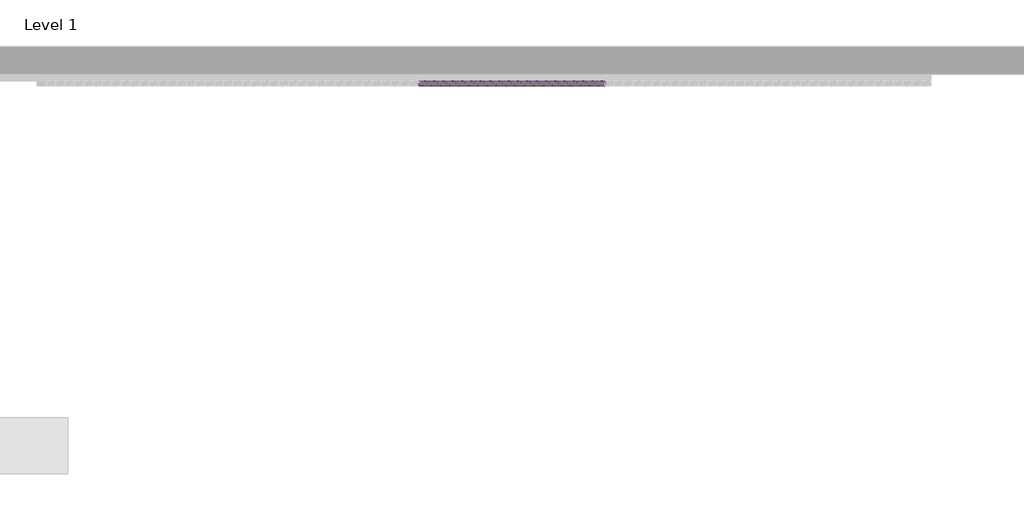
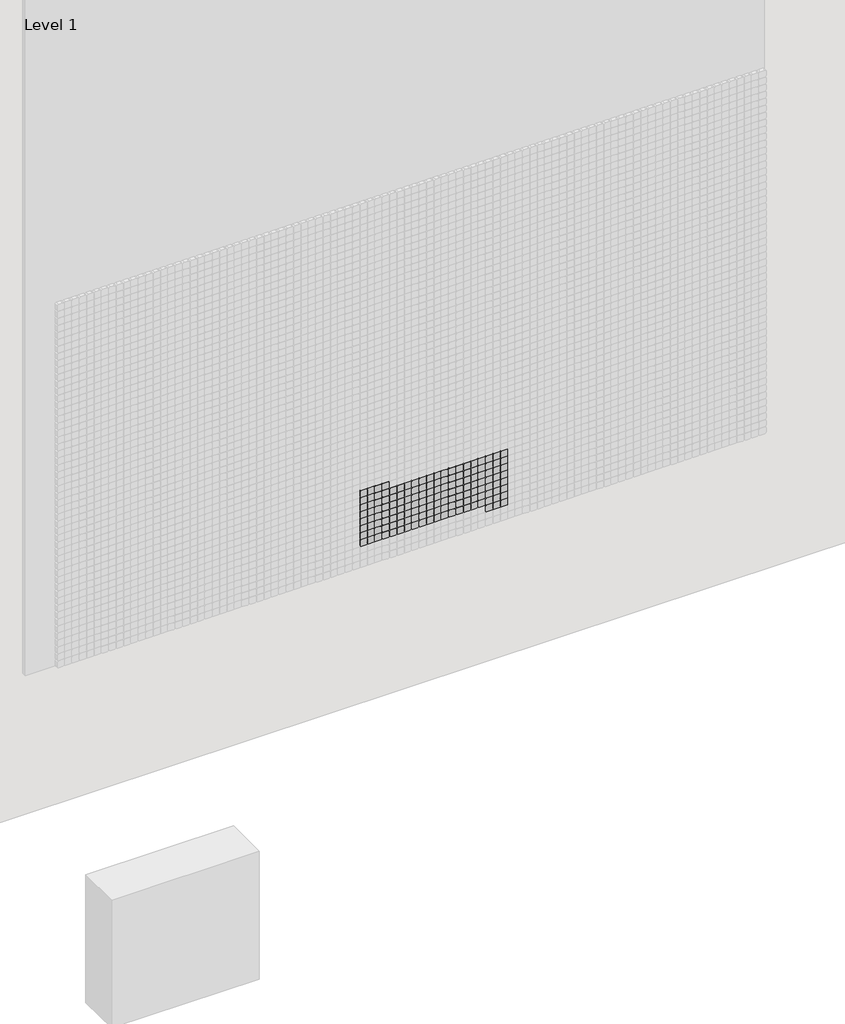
# One storey, part 47 of 71: 147 proxies.
"""IFC4 building model written with IfcOpenShell, lengths in millimetres."""

from ifc_helpers import new_model, si_unit, origin, place, context, project, spatial, transform, mapped, element, save
from components import generic_models_afde289c

model = new_model("IFC4")

# Units and contexts
model_context = context("Model", 3, world=origin())
ifc_project = project(units=[si_unit("LENGTHUNIT", "METRE", prefix="MILLI")], contexts=[model_context])

# Site, building, storey
site = spatial("IfcSite", under=ifc_project)
building = spatial("IfcBuilding", under=site)
storey = spatial("IfcBuildingStorey", under=building, Name="Level 1", Elevation=0.0)

# Proxies
placement = place(None, origin())
generic_models_shape = generic_models_afde289c(model_context)
element("IfcBuildingElementProxy", 1, Name="Pixel_M : Pixel_M", ObjectType="Pixel_M : Pixel_M", at=placement, inside=storey, context=model_context, shape_type="MappedRepresentation", body=[
    mapped(generic_models_shape, transform((7162.4280941, -75.0, 1516.3566215), x_axis=(1.0, 0.0, 0.0), y_axis=(0.0, 0.0, 1.0), z_axis=(0.0, -1.0, 0.0))),
])
element("IfcBuildingElementProxy", 2, Name="Pixel_M : Pixel_M", ObjectType="Pixel_M : Pixel_M", at=placement, inside=storey, context=model_context, shape_type="MappedRepresentation", body=[
    mapped(generic_models_shape, transform((7112.4280941, -75.0, 1516.3566215), x_axis=(1.0, 0.0, 0.0), y_axis=(0.0, 0.0, 1.0), z_axis=(0.0, -1.0, 0.0))),
])
element("IfcBuildingElementProxy", 3, Name="Pixel_M : Pixel_M", ObjectType="Pixel_M : Pixel_M", at=placement, inside=storey, context=model_context, shape_type="MappedRepresentation", body=[
    mapped(generic_models_shape, transform((7062.4280941, -75.0, 1516.3566215), x_axis=(1.0, 0.0, 0.0), y_axis=(0.0, 0.0, 1.0), z_axis=(0.0, -1.0, 0.0))),
])
element("IfcBuildingElementProxy", 4, Name="Pixel_M : Pixel_M", ObjectType="Pixel_M : Pixel_M", at=placement, inside=storey, context=model_context, shape_type="MappedRepresentation", body=[
    mapped(generic_models_shape, transform((7012.4280941, -75.0, 1516.3566215), x_axis=(1.0, 0.0, 0.0), y_axis=(0.0, 0.0, 1.0), z_axis=(0.0, -1.0, 0.0))),
])
element("IfcBuildingElementProxy", 5, Name="Pixel_M : Pixel_M", ObjectType="Pixel_M : Pixel_M", at=placement, inside=storey, context=model_context, shape_type="MappedRepresentation", body=[
    mapped(generic_models_shape, transform((7962.4280941, -75.0, 1466.3566215), x_axis=(1.0, 0.0, 0.0), y_axis=(0.0, 0.0, 1.0), z_axis=(0.0, -1.0, 0.0))),
])
element("IfcBuildingElementProxy", 6, Name="Pixel_M : Pixel_M", ObjectType="Pixel_M : Pixel_M", at=placement, inside=storey, context=model_context, shape_type="MappedRepresentation", body=[
    mapped(generic_models_shape, transform((7912.4280941, -75.0, 1466.3566215), x_axis=(1.0, 0.0, 0.0), y_axis=(0.0, 0.0, 1.0), z_axis=(0.0, -1.0, 0.0))),
])
element("IfcBuildingElementProxy", 7, Name="Pixel_M : Pixel_M", ObjectType="Pixel_M : Pixel_M", at=placement, inside=storey, context=model_context, shape_type="MappedRepresentation", body=[
    mapped(generic_models_shape, transform((7862.4280941, -75.0, 1466.3566215), x_axis=(1.0, 0.0, 0.0), y_axis=(0.0, 0.0, 1.0), z_axis=(0.0, -1.0, 0.0))),
])
element("IfcBuildingElementProxy", 8, Name="Pixel_M : Pixel_M", ObjectType="Pixel_M : Pixel_M", at=placement, inside=storey, context=model_context, shape_type="MappedRepresentation", body=[
    mapped(generic_models_shape, transform((7812.4280941, -75.0, 1466.3566215), x_axis=(1.0, 0.0, 0.0), y_axis=(0.0, 0.0, 1.0), z_axis=(0.0, -1.0, 0.0))),
])
element("IfcBuildingElementProxy", 9, Name="Pixel_M : Pixel_M", ObjectType="Pixel_M : Pixel_M", at=placement, inside=storey, context=model_context, shape_type="MappedRepresentation", body=[
    mapped(generic_models_shape, transform((7762.4280941, -75.0, 1466.3566215), x_axis=(1.0, 0.0, 0.0), y_axis=(0.0, 0.0, 1.0), z_axis=(0.0, -1.0, 0.0))),
])
element("IfcBuildingElementProxy", 10, Name="Pixel_M : Pixel_M", ObjectType="Pixel_M : Pixel_M", at=placement, inside=storey, context=model_context, shape_type="MappedRepresentation", body=[
    mapped(generic_models_shape, transform((7712.4280941, -75.0, 1466.3566215), x_axis=(1.0, 0.0, 0.0), y_axis=(0.0, 0.0, 1.0), z_axis=(0.0, -1.0, 0.0))),
])
element("IfcBuildingElementProxy", 11, Name="Pixel_M : Pixel_M", ObjectType="Pixel_M : Pixel_M", at=placement, inside=storey, context=model_context, shape_type="MappedRepresentation", body=[
    mapped(generic_models_shape, transform((7662.4280941, -75.0, 1466.3566215), x_axis=(1.0, 0.0, 0.0), y_axis=(0.0, 0.0, 1.0), z_axis=(0.0, -1.0, 0.0))),
])
element("IfcBuildingElementProxy", 12, Name="Pixel_M : Pixel_M", ObjectType="Pixel_M : Pixel_M", at=placement, inside=storey, context=model_context, shape_type="MappedRepresentation", body=[
    mapped(generic_models_shape, transform((7612.4280941, -75.0, 1466.3566215), x_axis=(1.0, 0.0, 0.0), y_axis=(0.0, 0.0, 1.0), z_axis=(0.0, -1.0, 0.0))),
])
element("IfcBuildingElementProxy", 13, Name="Pixel_M : Pixel_M", ObjectType="Pixel_M : Pixel_M", at=placement, inside=storey, context=model_context, shape_type="MappedRepresentation", body=[
    mapped(generic_models_shape, transform((7562.4280941, -75.0, 1466.3566215), x_axis=(1.0, 0.0, 0.0), y_axis=(0.0, 0.0, 1.0), z_axis=(0.0, -1.0, 0.0))),
])
element("IfcBuildingElementProxy", 14, Name="Pixel_M : Pixel_M", ObjectType="Pixel_M : Pixel_M", at=placement, inside=storey, context=model_context, shape_type="MappedRepresentation", body=[
    mapped(generic_models_shape, transform((7512.4280941, -75.0, 1466.3566215), x_axis=(1.0, 0.0, 0.0), y_axis=(0.0, 0.0, 1.0), z_axis=(0.0, -1.0, 0.0))),
])
element("IfcBuildingElementProxy", 15, Name="Pixel_M : Pixel_M", ObjectType="Pixel_M : Pixel_M", at=placement, inside=storey, context=model_context, shape_type="MappedRepresentation", body=[
    mapped(generic_models_shape, transform((7462.4280941, -75.0, 1466.3566215), x_axis=(1.0, 0.0, 0.0), y_axis=(0.0, 0.0, 1.0), z_axis=(0.0, -1.0, 0.0))),
])
element("IfcBuildingElementProxy", 16, Name="Pixel_M : Pixel_M", ObjectType="Pixel_M : Pixel_M", at=placement, inside=storey, context=model_context, shape_type="MappedRepresentation", body=[
    mapped(generic_models_shape, transform((7412.4280941, -75.0, 1466.3566215), x_axis=(1.0, 0.0, 0.0), y_axis=(0.0, 0.0, 1.0), z_axis=(0.0, -1.0, 0.0))),
])
element("IfcBuildingElementProxy", 17, Name="Pixel_M : Pixel_M", ObjectType="Pixel_M : Pixel_M", at=placement, inside=storey, context=model_context, shape_type="MappedRepresentation", body=[
    mapped(generic_models_shape, transform((7362.4280941, -75.0, 1466.3566215), x_axis=(1.0, 0.0, 0.0), y_axis=(0.0, 0.0, 1.0), z_axis=(0.0, -1.0, 0.0))),
])
element("IfcBuildingElementProxy", 18, Name="Pixel_M : Pixel_M", ObjectType="Pixel_M : Pixel_M", at=placement, inside=storey, context=model_context, shape_type="MappedRepresentation", body=[
    mapped(generic_models_shape, transform((7312.4280941, -75.0, 1466.3566215), x_axis=(1.0, 0.0, 0.0), y_axis=(0.0, 0.0, 1.0), z_axis=(0.0, -1.0, 0.0))),
])
element("IfcBuildingElementProxy", 19, Name="Pixel_M : Pixel_M", ObjectType="Pixel_M : Pixel_M", at=placement, inside=storey, context=model_context, shape_type="MappedRepresentation", body=[
    mapped(generic_models_shape, transform((7262.4280941, -75.0, 1466.3566215), x_axis=(1.0, 0.0, 0.0), y_axis=(0.0, 0.0, 1.0), z_axis=(0.0, -1.0, 0.0))),
])
element("IfcBuildingElementProxy", 20, Name="Pixel_M : Pixel_M", ObjectType="Pixel_M : Pixel_M", at=placement, inside=storey, context=model_context, shape_type="MappedRepresentation", body=[
    mapped(generic_models_shape, transform((7212.4280941, -75.0, 1466.3566215), x_axis=(1.0, 0.0, 0.0), y_axis=(0.0, 0.0, 1.0), z_axis=(0.0, -1.0, 0.0))),
])
element("IfcBuildingElementProxy", 21, Name="Pixel_M : Pixel_M", ObjectType="Pixel_M : Pixel_M", at=placement, inside=storey, context=model_context, shape_type="MappedRepresentation", body=[
    mapped(generic_models_shape, transform((7162.4280941, -75.0, 1466.3566215), x_axis=(1.0, 0.0, 0.0), y_axis=(0.0, 0.0, 1.0), z_axis=(0.0, -1.0, 0.0))),
])
element("IfcBuildingElementProxy", 22, Name="Pixel_M : Pixel_M", ObjectType="Pixel_M : Pixel_M", at=placement, inside=storey, context=model_context, shape_type="MappedRepresentation", body=[
    mapped(generic_models_shape, transform((7112.4280941, -75.0, 1466.3566215), x_axis=(1.0, 0.0, 0.0), y_axis=(0.0, 0.0, 1.0), z_axis=(0.0, -1.0, 0.0))),
])
element("IfcBuildingElementProxy", 23, Name="Pixel_M : Pixel_M", ObjectType="Pixel_M : Pixel_M", at=placement, inside=storey, context=model_context, shape_type="MappedRepresentation", body=[
    mapped(generic_models_shape, transform((7062.4280941, -75.0, 1466.3566215), x_axis=(1.0, 0.0, 0.0), y_axis=(0.0, 0.0, 1.0), z_axis=(0.0, -1.0, 0.0))),
])
element("IfcBuildingElementProxy", 24, Name="Pixel_M : Pixel_M", ObjectType="Pixel_M : Pixel_M", at=placement, inside=storey, context=model_context, shape_type="MappedRepresentation", body=[
    mapped(generic_models_shape, transform((7012.4280941, -75.0, 1466.3566215), x_axis=(1.0, 0.0, 0.0), y_axis=(0.0, 0.0, 1.0), z_axis=(0.0, -1.0, 0.0))),
])
element("IfcBuildingElementProxy", 25, Name="Pixel_M : Pixel_M", ObjectType="Pixel_M : Pixel_M", at=placement, inside=storey, context=model_context, shape_type="MappedRepresentation", body=[
    mapped(generic_models_shape, transform((7962.4280941, -75.0, 1416.3566215), x_axis=(1.0, 0.0, 0.0), y_axis=(0.0, 0.0, 1.0), z_axis=(0.0, -1.0, 0.0))),
])
element("IfcBuildingElementProxy", 26, Name="Pixel_M : Pixel_M", ObjectType="Pixel_M : Pixel_M", at=placement, inside=storey, context=model_context, shape_type="MappedRepresentation", body=[
    mapped(generic_models_shape, transform((7912.4280941, -75.0, 1416.3566215), x_axis=(1.0, 0.0, 0.0), y_axis=(0.0, 0.0, 1.0), z_axis=(0.0, -1.0, 0.0))),
])
element("IfcBuildingElementProxy", 27, Name="Pixel_M : Pixel_M", ObjectType="Pixel_M : Pixel_M", at=placement, inside=storey, context=model_context, shape_type="MappedRepresentation", body=[
    mapped(generic_models_shape, transform((7862.4280941, -75.0, 1416.3566215), x_axis=(1.0, 0.0, 0.0), y_axis=(0.0, 0.0, 1.0), z_axis=(0.0, -1.0, 0.0))),
])
element("IfcBuildingElementProxy", 28, Name="Pixel_M : Pixel_M", ObjectType="Pixel_M : Pixel_M", at=placement, inside=storey, context=model_context, shape_type="MappedRepresentation", body=[
    mapped(generic_models_shape, transform((7812.4280941, -75.0, 1416.3566215), x_axis=(1.0, 0.0, 0.0), y_axis=(0.0, 0.0, 1.0), z_axis=(0.0, -1.0, 0.0))),
])
element("IfcBuildingElementProxy", 29, Name="Pixel_M : Pixel_M", ObjectType="Pixel_M : Pixel_M", at=placement, inside=storey, context=model_context, shape_type="MappedRepresentation", body=[
    mapped(generic_models_shape, transform((7762.4280941, -75.0, 1416.3566215), x_axis=(1.0, 0.0, 0.0), y_axis=(0.0, 0.0, 1.0), z_axis=(0.0, -1.0, 0.0))),
])
element("IfcBuildingElementProxy", 30, Name="Pixel_M : Pixel_M", ObjectType="Pixel_M : Pixel_M", at=placement, inside=storey, context=model_context, shape_type="MappedRepresentation", body=[
    mapped(generic_models_shape, transform((7712.4280941, -75.0, 1416.3566215), x_axis=(1.0, 0.0, 0.0), y_axis=(0.0, 0.0, 1.0), z_axis=(0.0, -1.0, 0.0))),
])
element("IfcBuildingElementProxy", 31, Name="Pixel_M : Pixel_M", ObjectType="Pixel_M : Pixel_M", at=placement, inside=storey, context=model_context, shape_type="MappedRepresentation", body=[
    mapped(generic_models_shape, transform((7662.4280941, -75.0, 1416.3566215), x_axis=(1.0, 0.0, 0.0), y_axis=(0.0, 0.0, 1.0), z_axis=(0.0, -1.0, 0.0))),
])
element("IfcBuildingElementProxy", 32, Name="Pixel_M : Pixel_M", ObjectType="Pixel_M : Pixel_M", at=placement, inside=storey, context=model_context, shape_type="MappedRepresentation", body=[
    mapped(generic_models_shape, transform((7612.4280941, -75.0, 1416.3566215), x_axis=(1.0, 0.0, 0.0), y_axis=(0.0, 0.0, 1.0), z_axis=(0.0, -1.0, 0.0))),
])
element("IfcBuildingElementProxy", 33, Name="Pixel_M : Pixel_M", ObjectType="Pixel_M : Pixel_M", at=placement, inside=storey, context=model_context, shape_type="MappedRepresentation", body=[
    mapped(generic_models_shape, transform((7562.4280941, -75.0, 1416.3566215), x_axis=(1.0, 0.0, 0.0), y_axis=(0.0, 0.0, 1.0), z_axis=(0.0, -1.0, 0.0))),
])
element("IfcBuildingElementProxy", 34, Name="Pixel_M : Pixel_M", ObjectType="Pixel_M : Pixel_M", at=placement, inside=storey, context=model_context, shape_type="MappedRepresentation", body=[
    mapped(generic_models_shape, transform((7512.4280941, -75.0, 1416.3566215), x_axis=(1.0, 0.0, 0.0), y_axis=(0.0, 0.0, 1.0), z_axis=(0.0, -1.0, 0.0))),
])
element("IfcBuildingElementProxy", 35, Name="Pixel_M : Pixel_M", ObjectType="Pixel_M : Pixel_M", at=placement, inside=storey, context=model_context, shape_type="MappedRepresentation", body=[
    mapped(generic_models_shape, transform((7462.4280941, -75.0, 1416.3566215), x_axis=(1.0, 0.0, 0.0), y_axis=(0.0, 0.0, 1.0), z_axis=(0.0, -1.0, 0.0))),
])
element("IfcBuildingElementProxy", 36, Name="Pixel_M : Pixel_M", ObjectType="Pixel_M : Pixel_M", at=placement, inside=storey, context=model_context, shape_type="MappedRepresentation", body=[
    mapped(generic_models_shape, transform((7412.4280941, -75.0, 1416.3566215), x_axis=(1.0, 0.0, 0.0), y_axis=(0.0, 0.0, 1.0), z_axis=(0.0, -1.0, 0.0))),
])
element("IfcBuildingElementProxy", 37, Name="Pixel_M : Pixel_M", ObjectType="Pixel_M : Pixel_M", at=placement, inside=storey, context=model_context, shape_type="MappedRepresentation", body=[
    mapped(generic_models_shape, transform((7362.4280941, -75.0, 1416.3566215), x_axis=(1.0, 0.0, 0.0), y_axis=(0.0, 0.0, 1.0), z_axis=(0.0, -1.0, 0.0))),
])
element("IfcBuildingElementProxy", 38, Name="Pixel_M : Pixel_M", ObjectType="Pixel_M : Pixel_M", at=placement, inside=storey, context=model_context, shape_type="MappedRepresentation", body=[
    mapped(generic_models_shape, transform((7312.4280941, -75.0, 1416.3566215), x_axis=(1.0, 0.0, 0.0), y_axis=(0.0, 0.0, 1.0), z_axis=(0.0, -1.0, 0.0))),
])
element("IfcBuildingElementProxy", 39, Name="Pixel_M : Pixel_M", ObjectType="Pixel_M : Pixel_M", at=placement, inside=storey, context=model_context, shape_type="MappedRepresentation", body=[
    mapped(generic_models_shape, transform((7262.4280941, -75.0, 1416.3566215), x_axis=(1.0, 0.0, 0.0), y_axis=(0.0, 0.0, 1.0), z_axis=(0.0, -1.0, 0.0))),
])
element("IfcBuildingElementProxy", 40, Name="Pixel_M : Pixel_M", ObjectType="Pixel_M : Pixel_M", at=placement, inside=storey, context=model_context, shape_type="MappedRepresentation", body=[
    mapped(generic_models_shape, transform((7212.4280941, -75.0, 1416.3566215), x_axis=(1.0, 0.0, 0.0), y_axis=(0.0, 0.0, 1.0), z_axis=(0.0, -1.0, 0.0))),
])
element("IfcBuildingElementProxy", 41, Name="Pixel_M : Pixel_M", ObjectType="Pixel_M : Pixel_M", at=placement, inside=storey, context=model_context, shape_type="MappedRepresentation", body=[
    mapped(generic_models_shape, transform((7162.4280941, -75.0, 1416.3566215), x_axis=(1.0, 0.0, 0.0), y_axis=(0.0, 0.0, 1.0), z_axis=(0.0, -1.0, 0.0))),
])
element("IfcBuildingElementProxy", 42, Name="Pixel_M : Pixel_M", ObjectType="Pixel_M : Pixel_M", at=placement, inside=storey, context=model_context, shape_type="MappedRepresentation", body=[
    mapped(generic_models_shape, transform((7112.4280941, -75.0, 1416.3566215), x_axis=(1.0, 0.0, 0.0), y_axis=(0.0, 0.0, 1.0), z_axis=(0.0, -1.0, 0.0))),
])
element("IfcBuildingElementProxy", 43, Name="Pixel_M : Pixel_M", ObjectType="Pixel_M : Pixel_M", at=placement, inside=storey, context=model_context, shape_type="MappedRepresentation", body=[
    mapped(generic_models_shape, transform((7062.4280941, -75.0, 1416.3566215), x_axis=(1.0, 0.0, 0.0), y_axis=(0.0, 0.0, 1.0), z_axis=(0.0, -1.0, 0.0))),
])
element("IfcBuildingElementProxy", 44, Name="Pixel_M : Pixel_M", ObjectType="Pixel_M : Pixel_M", at=placement, inside=storey, context=model_context, shape_type="MappedRepresentation", body=[
    mapped(generic_models_shape, transform((7012.4280941, -75.0, 1416.3566215), x_axis=(1.0, 0.0, 0.0), y_axis=(0.0, 0.0, 1.0), z_axis=(0.0, -1.0, 0.0))),
])
element("IfcBuildingElementProxy", 45, Name="Pixel_M : Pixel_M", ObjectType="Pixel_M : Pixel_M", at=placement, inside=storey, context=model_context, shape_type="MappedRepresentation", body=[
    mapped(generic_models_shape, transform((7962.4280941, -75.0, 1366.3566215), x_axis=(1.0, 0.0, 0.0), y_axis=(0.0, 0.0, 1.0), z_axis=(0.0, -1.0, 0.0))),
])
element("IfcBuildingElementProxy", 46, Name="Pixel_M : Pixel_M", ObjectType="Pixel_M : Pixel_M", at=placement, inside=storey, context=model_context, shape_type="MappedRepresentation", body=[
    mapped(generic_models_shape, transform((7912.4280941, -75.0, 1366.3566215), x_axis=(1.0, 0.0, 0.0), y_axis=(0.0, 0.0, 1.0), z_axis=(0.0, -1.0, 0.0))),
])
element("IfcBuildingElementProxy", 47, Name="Pixel_M : Pixel_M", ObjectType="Pixel_M : Pixel_M", at=placement, inside=storey, context=model_context, shape_type="MappedRepresentation", body=[
    mapped(generic_models_shape, transform((7862.4280941, -75.0, 1366.3566215), x_axis=(1.0, 0.0, 0.0), y_axis=(0.0, 0.0, 1.0), z_axis=(0.0, -1.0, 0.0))),
])
element("IfcBuildingElementProxy", 48, Name="Pixel_M : Pixel_M", ObjectType="Pixel_M : Pixel_M", at=placement, inside=storey, context=model_context, shape_type="MappedRepresentation", body=[
    mapped(generic_models_shape, transform((7812.4280941, -75.0, 1366.3566215), x_axis=(1.0, 0.0, 0.0), y_axis=(0.0, 0.0, 1.0), z_axis=(0.0, -1.0, 0.0))),
])
element("IfcBuildingElementProxy", 49, Name="Pixel_M : Pixel_M", ObjectType="Pixel_M : Pixel_M", at=placement, inside=storey, context=model_context, shape_type="MappedRepresentation", body=[
    mapped(generic_models_shape, transform((7762.4280941, -75.0, 1366.3566215), x_axis=(1.0, 0.0, 0.0), y_axis=(0.0, 0.0, 1.0), z_axis=(0.0, -1.0, 0.0))),
])
element("IfcBuildingElementProxy", 50, Name="Pixel_M : Pixel_M", ObjectType="Pixel_M : Pixel_M", at=placement, inside=storey, context=model_context, shape_type="MappedRepresentation", body=[
    mapped(generic_models_shape, transform((7712.4280941, -75.0, 1366.3566215), x_axis=(1.0, 0.0, 0.0), y_axis=(0.0, 0.0, 1.0), z_axis=(0.0, -1.0, 0.0))),
])
element("IfcBuildingElementProxy", 51, Name="Pixel_M : Pixel_M", ObjectType="Pixel_M : Pixel_M", at=placement, inside=storey, context=model_context, shape_type="MappedRepresentation", body=[
    mapped(generic_models_shape, transform((7662.4280941, -75.0, 1366.3566215), x_axis=(1.0, 0.0, 0.0), y_axis=(0.0, 0.0, 1.0), z_axis=(0.0, -1.0, 0.0))),
])
element("IfcBuildingElementProxy", 52, Name="Pixel_M : Pixel_M", ObjectType="Pixel_M : Pixel_M", at=placement, inside=storey, context=model_context, shape_type="MappedRepresentation", body=[
    mapped(generic_models_shape, transform((7612.4280941, -75.0, 1366.3566215), x_axis=(1.0, 0.0, 0.0), y_axis=(0.0, 0.0, 1.0), z_axis=(0.0, -1.0, 0.0))),
])
element("IfcBuildingElementProxy", 53, Name="Pixel_M : Pixel_M", ObjectType="Pixel_M : Pixel_M", at=placement, inside=storey, context=model_context, shape_type="MappedRepresentation", body=[
    mapped(generic_models_shape, transform((7562.4280941, -75.0, 1366.3566215), x_axis=(1.0, 0.0, 0.0), y_axis=(0.0, 0.0, 1.0), z_axis=(0.0, -1.0, 0.0))),
])
element("IfcBuildingElementProxy", 54, Name="Pixel_M : Pixel_M", ObjectType="Pixel_M : Pixel_M", at=placement, inside=storey, context=model_context, shape_type="MappedRepresentation", body=[
    mapped(generic_models_shape, transform((7512.4280941, -75.0, 1366.3566215), x_axis=(1.0, 0.0, 0.0), y_axis=(0.0, 0.0, 1.0), z_axis=(0.0, -1.0, 0.0))),
])
element("IfcBuildingElementProxy", 55, Name="Pixel_M : Pixel_M", ObjectType="Pixel_M : Pixel_M", at=placement, inside=storey, context=model_context, shape_type="MappedRepresentation", body=[
    mapped(generic_models_shape, transform((7462.4280941, -75.0, 1366.3566215), x_axis=(1.0, 0.0, 0.0), y_axis=(0.0, 0.0, 1.0), z_axis=(0.0, -1.0, 0.0))),
])
element("IfcBuildingElementProxy", 56, Name="Pixel_M : Pixel_M", ObjectType="Pixel_M : Pixel_M", at=placement, inside=storey, context=model_context, shape_type="MappedRepresentation", body=[
    mapped(generic_models_shape, transform((7412.4280941, -75.0, 1366.3566215), x_axis=(1.0, 0.0, 0.0), y_axis=(0.0, 0.0, 1.0), z_axis=(0.0, -1.0, 0.0))),
])
element("IfcBuildingElementProxy", 57, Name="Pixel_M : Pixel_M", ObjectType="Pixel_M : Pixel_M", at=placement, inside=storey, context=model_context, shape_type="MappedRepresentation", body=[
    mapped(generic_models_shape, transform((7362.4280941, -75.0, 1366.3566215), x_axis=(1.0, 0.0, 0.0), y_axis=(0.0, 0.0, 1.0), z_axis=(0.0, -1.0, 0.0))),
])
element("IfcBuildingElementProxy", 58, Name="Pixel_M : Pixel_M", ObjectType="Pixel_M : Pixel_M", at=placement, inside=storey, context=model_context, shape_type="MappedRepresentation", body=[
    mapped(generic_models_shape, transform((7312.4280941, -75.0, 1366.3566215), x_axis=(1.0, 0.0, 0.0), y_axis=(0.0, 0.0, 1.0), z_axis=(0.0, -1.0, 0.0))),
])
element("IfcBuildingElementProxy", 59, Name="Pixel_M : Pixel_M", ObjectType="Pixel_M : Pixel_M", at=placement, inside=storey, context=model_context, shape_type="MappedRepresentation", body=[
    mapped(generic_models_shape, transform((7262.4280941, -75.0, 1366.3566215), x_axis=(1.0, 0.0, 0.0), y_axis=(0.0, 0.0, 1.0), z_axis=(0.0, -1.0, 0.0))),
])
element("IfcBuildingElementProxy", 60, Name="Pixel_M : Pixel_M", ObjectType="Pixel_M : Pixel_M", at=placement, inside=storey, context=model_context, shape_type="MappedRepresentation", body=[
    mapped(generic_models_shape, transform((7212.4280941, -75.0, 1366.3566215), x_axis=(1.0, 0.0, 0.0), y_axis=(0.0, 0.0, 1.0), z_axis=(0.0, -1.0, 0.0))),
])
element("IfcBuildingElementProxy", 61, Name="Pixel_M : Pixel_M", ObjectType="Pixel_M : Pixel_M", at=placement, inside=storey, context=model_context, shape_type="MappedRepresentation", body=[
    mapped(generic_models_shape, transform((7162.4280941, -75.0, 1366.3566215), x_axis=(1.0, 0.0, 0.0), y_axis=(0.0, 0.0, 1.0), z_axis=(0.0, -1.0, 0.0))),
])
element("IfcBuildingElementProxy", 62, Name="Pixel_M : Pixel_M", ObjectType="Pixel_M : Pixel_M", at=placement, inside=storey, context=model_context, shape_type="MappedRepresentation", body=[
    mapped(generic_models_shape, transform((7112.4280941, -75.0, 1366.3566215), x_axis=(1.0, 0.0, 0.0), y_axis=(0.0, 0.0, 1.0), z_axis=(0.0, -1.0, 0.0))),
])
element("IfcBuildingElementProxy", 63, Name="Pixel_M : Pixel_M", ObjectType="Pixel_M : Pixel_M", at=placement, inside=storey, context=model_context, shape_type="MappedRepresentation", body=[
    mapped(generic_models_shape, transform((7062.4280941, -75.0, 1366.3566215), x_axis=(1.0, 0.0, 0.0), y_axis=(0.0, 0.0, 1.0), z_axis=(0.0, -1.0, 0.0))),
])
element("IfcBuildingElementProxy", 64, Name="Pixel_M : Pixel_M", ObjectType="Pixel_M : Pixel_M", at=placement, inside=storey, context=model_context, shape_type="MappedRepresentation", body=[
    mapped(generic_models_shape, transform((7012.4280941, -75.0, 1366.3566215), x_axis=(1.0, 0.0, 0.0), y_axis=(0.0, 0.0, 1.0), z_axis=(0.0, -1.0, 0.0))),
])
element("IfcBuildingElementProxy", 65, Name="Pixel_M : Pixel_M", ObjectType="Pixel_M : Pixel_M", at=placement, inside=storey, context=model_context, shape_type="MappedRepresentation", body=[
    mapped(generic_models_shape, transform((7962.4280941, -75.0, 1316.3566215), x_axis=(1.0, 0.0, 0.0), y_axis=(0.0, 0.0, 1.0), z_axis=(0.0, -1.0, 0.0))),
])
element("IfcBuildingElementProxy", 66, Name="Pixel_M : Pixel_M", ObjectType="Pixel_M : Pixel_M", at=placement, inside=storey, context=model_context, shape_type="MappedRepresentation", body=[
    mapped(generic_models_shape, transform((7912.4280941, -75.0, 1316.3566215), x_axis=(1.0, 0.0, 0.0), y_axis=(0.0, 0.0, 1.0), z_axis=(0.0, -1.0, 0.0))),
])
element("IfcBuildingElementProxy", 67, Name="Pixel_M : Pixel_M", ObjectType="Pixel_M : Pixel_M", at=placement, inside=storey, context=model_context, shape_type="MappedRepresentation", body=[
    mapped(generic_models_shape, transform((7862.4280941, -75.0, 1316.3566215), x_axis=(1.0, 0.0, 0.0), y_axis=(0.0, 0.0, 1.0), z_axis=(0.0, -1.0, 0.0))),
])
element("IfcBuildingElementProxy", 68, Name="Pixel_M : Pixel_M", ObjectType="Pixel_M : Pixel_M", at=placement, inside=storey, context=model_context, shape_type="MappedRepresentation", body=[
    mapped(generic_models_shape, transform((7812.4280941, -75.0, 1316.3566215), x_axis=(1.0, 0.0, 0.0), y_axis=(0.0, 0.0, 1.0), z_axis=(0.0, -1.0, 0.0))),
])
element("IfcBuildingElementProxy", 69, Name="Pixel_M : Pixel_M", ObjectType="Pixel_M : Pixel_M", at=placement, inside=storey, context=model_context, shape_type="MappedRepresentation", body=[
    mapped(generic_models_shape, transform((7762.4280941, -75.0, 1316.3566215), x_axis=(1.0, 0.0, 0.0), y_axis=(0.0, 0.0, 1.0), z_axis=(0.0, -1.0, 0.0))),
])
element("IfcBuildingElementProxy", 70, Name="Pixel_M : Pixel_M", ObjectType="Pixel_M : Pixel_M", at=placement, inside=storey, context=model_context, shape_type="MappedRepresentation", body=[
    mapped(generic_models_shape, transform((7712.4280941, -75.0, 1316.3566215), x_axis=(1.0, 0.0, 0.0), y_axis=(0.0, 0.0, 1.0), z_axis=(0.0, -1.0, 0.0))),
])
element("IfcBuildingElementProxy", 71, Name="Pixel_M : Pixel_M", ObjectType="Pixel_M : Pixel_M", at=placement, inside=storey, context=model_context, shape_type="MappedRepresentation", body=[
    mapped(generic_models_shape, transform((7662.4280941, -75.0, 1316.3566215), x_axis=(1.0, 0.0, 0.0), y_axis=(0.0, 0.0, 1.0), z_axis=(0.0, -1.0, 0.0))),
])
element("IfcBuildingElementProxy", 72, Name="Pixel_M : Pixel_M", ObjectType="Pixel_M : Pixel_M", at=placement, inside=storey, context=model_context, shape_type="MappedRepresentation", body=[
    mapped(generic_models_shape, transform((7612.4280941, -75.0, 1316.3566215), x_axis=(1.0, 0.0, 0.0), y_axis=(0.0, 0.0, 1.0), z_axis=(0.0, -1.0, 0.0))),
])
element("IfcBuildingElementProxy", 73, Name="Pixel_M : Pixel_M", ObjectType="Pixel_M : Pixel_M", at=placement, inside=storey, context=model_context, shape_type="MappedRepresentation", body=[
    mapped(generic_models_shape, transform((7562.4280941, -75.0, 1316.3566215), x_axis=(1.0, 0.0, 0.0), y_axis=(0.0, 0.0, 1.0), z_axis=(0.0, -1.0, 0.0))),
])
element("IfcBuildingElementProxy", 74, Name="Pixel_M : Pixel_M", ObjectType="Pixel_M : Pixel_M", at=placement, inside=storey, context=model_context, shape_type="MappedRepresentation", body=[
    mapped(generic_models_shape, transform((7512.4280941, -75.0, 1316.3566215), x_axis=(1.0, 0.0, 0.0), y_axis=(0.0, 0.0, 1.0), z_axis=(0.0, -1.0, 0.0))),
])
element("IfcBuildingElementProxy", 75, Name="Pixel_M : Pixel_M", ObjectType="Pixel_M : Pixel_M", at=placement, inside=storey, context=model_context, shape_type="MappedRepresentation", body=[
    mapped(generic_models_shape, transform((7462.4280941, -75.0, 1316.3566215), x_axis=(1.0, 0.0, 0.0), y_axis=(0.0, 0.0, 1.0), z_axis=(0.0, -1.0, 0.0))),
])
element("IfcBuildingElementProxy", 76, Name="Pixel_M : Pixel_M", ObjectType="Pixel_M : Pixel_M", at=placement, inside=storey, context=model_context, shape_type="MappedRepresentation", body=[
    mapped(generic_models_shape, transform((7412.4280941, -75.0, 1316.3566215), x_axis=(1.0, 0.0, 0.0), y_axis=(0.0, 0.0, 1.0), z_axis=(0.0, -1.0, 0.0))),
])
element("IfcBuildingElementProxy", 77, Name="Pixel_M : Pixel_M", ObjectType="Pixel_M : Pixel_M", at=placement, inside=storey, context=model_context, shape_type="MappedRepresentation", body=[
    mapped(generic_models_shape, transform((7362.4280941, -75.0, 1316.3566215), x_axis=(1.0, 0.0, 0.0), y_axis=(0.0, 0.0, 1.0), z_axis=(0.0, -1.0, 0.0))),
])
element("IfcBuildingElementProxy", 78, Name="Pixel_M : Pixel_M", ObjectType="Pixel_M : Pixel_M", at=placement, inside=storey, context=model_context, shape_type="MappedRepresentation", body=[
    mapped(generic_models_shape, transform((7312.4280941, -75.0, 1316.3566215), x_axis=(1.0, 0.0, 0.0), y_axis=(0.0, 0.0, 1.0), z_axis=(0.0, -1.0, 0.0))),
])
element("IfcBuildingElementProxy", 79, Name="Pixel_M : Pixel_M", ObjectType="Pixel_M : Pixel_M", at=placement, inside=storey, context=model_context, shape_type="MappedRepresentation", body=[
    mapped(generic_models_shape, transform((7262.4280941, -75.0, 1316.3566215), x_axis=(1.0, 0.0, 0.0), y_axis=(0.0, 0.0, 1.0), z_axis=(0.0, -1.0, 0.0))),
])
element("IfcBuildingElementProxy", 80, Name="Pixel_M : Pixel_M", ObjectType="Pixel_M : Pixel_M", at=placement, inside=storey, context=model_context, shape_type="MappedRepresentation", body=[
    mapped(generic_models_shape, transform((7212.4280941, -75.0, 1316.3566215), x_axis=(1.0, 0.0, 0.0), y_axis=(0.0, 0.0, 1.0), z_axis=(0.0, -1.0, 0.0))),
])
element("IfcBuildingElementProxy", 81, Name="Pixel_M : Pixel_M", ObjectType="Pixel_M : Pixel_M", at=placement, inside=storey, context=model_context, shape_type="MappedRepresentation", body=[
    mapped(generic_models_shape, transform((7162.4280941, -75.0, 1316.3566215), x_axis=(1.0, 0.0, 0.0), y_axis=(0.0, 0.0, 1.0), z_axis=(0.0, -1.0, 0.0))),
])
element("IfcBuildingElementProxy", 82, Name="Pixel_M : Pixel_M", ObjectType="Pixel_M : Pixel_M", at=placement, inside=storey, context=model_context, shape_type="MappedRepresentation", body=[
    mapped(generic_models_shape, transform((7112.4280941, -75.0, 1316.3566215), x_axis=(1.0, 0.0, 0.0), y_axis=(0.0, 0.0, 1.0), z_axis=(0.0, -1.0, 0.0))),
])
element("IfcBuildingElementProxy", 83, Name="Pixel_M : Pixel_M", ObjectType="Pixel_M : Pixel_M", at=placement, inside=storey, context=model_context, shape_type="MappedRepresentation", body=[
    mapped(generic_models_shape, transform((7062.4280941, -75.0, 1316.3566215), x_axis=(1.0, 0.0, 0.0), y_axis=(0.0, 0.0, 1.0), z_axis=(0.0, -1.0, 0.0))),
])
element("IfcBuildingElementProxy", 84, Name="Pixel_M : Pixel_M", ObjectType="Pixel_M : Pixel_M", at=placement, inside=storey, context=model_context, shape_type="MappedRepresentation", body=[
    mapped(generic_models_shape, transform((7012.4280941, -75.0, 1316.3566215), x_axis=(1.0, 0.0, 0.0), y_axis=(0.0, 0.0, 1.0), z_axis=(0.0, -1.0, 0.0))),
])
element("IfcBuildingElementProxy", 85, Name="Pixel_M : Pixel_M", ObjectType="Pixel_M : Pixel_M", at=placement, inside=storey, context=model_context, shape_type="MappedRepresentation", body=[
    mapped(generic_models_shape, transform((7962.4280941, -75.0, 1266.3566215), x_axis=(1.0, 0.0, 0.0), y_axis=(0.0, 0.0, 1.0), z_axis=(0.0, -1.0, 0.0))),
])
element("IfcBuildingElementProxy", 86, Name="Pixel_M : Pixel_M", ObjectType="Pixel_M : Pixel_M", at=placement, inside=storey, context=model_context, shape_type="MappedRepresentation", body=[
    mapped(generic_models_shape, transform((7912.4280941, -75.0, 1266.3566215), x_axis=(1.0, 0.0, 0.0), y_axis=(0.0, 0.0, 1.0), z_axis=(0.0, -1.0, 0.0))),
])
element("IfcBuildingElementProxy", 87, Name="Pixel_M : Pixel_M", ObjectType="Pixel_M : Pixel_M", at=placement, inside=storey, context=model_context, shape_type="MappedRepresentation", body=[
    mapped(generic_models_shape, transform((7862.4280941, -75.0, 1266.3566215), x_axis=(1.0, 0.0, 0.0), y_axis=(0.0, 0.0, 1.0), z_axis=(0.0, -1.0, 0.0))),
])
element("IfcBuildingElementProxy", 88, Name="Pixel_M : Pixel_M", ObjectType="Pixel_M : Pixel_M", at=placement, inside=storey, context=model_context, shape_type="MappedRepresentation", body=[
    mapped(generic_models_shape, transform((7812.4280941, -75.0, 1266.3566215), x_axis=(1.0, 0.0, 0.0), y_axis=(0.0, 0.0, 1.0), z_axis=(0.0, -1.0, 0.0))),
])
element("IfcBuildingElementProxy", 89, Name="Pixel_M : Pixel_M", ObjectType="Pixel_M : Pixel_M", at=placement, inside=storey, context=model_context, shape_type="MappedRepresentation", body=[
    mapped(generic_models_shape, transform((7762.4280941, -75.0, 1266.3566215), x_axis=(1.0, 0.0, 0.0), y_axis=(0.0, 0.0, 1.0), z_axis=(0.0, -1.0, 0.0))),
])
element("IfcBuildingElementProxy", 90, Name="Pixel_M : Pixel_M", ObjectType="Pixel_M : Pixel_M", at=placement, inside=storey, context=model_context, shape_type="MappedRepresentation", body=[
    mapped(generic_models_shape, transform((7712.4280941, -75.0, 1266.3566215), x_axis=(1.0, 0.0, 0.0), y_axis=(0.0, 0.0, 1.0), z_axis=(0.0, -1.0, 0.0))),
])
element("IfcBuildingElementProxy", 91, Name="Pixel_M : Pixel_M", ObjectType="Pixel_M : Pixel_M", at=placement, inside=storey, context=model_context, shape_type="MappedRepresentation", body=[
    mapped(generic_models_shape, transform((7662.4280941, -75.0, 1266.3566215), x_axis=(1.0, 0.0, 0.0), y_axis=(0.0, 0.0, 1.0), z_axis=(0.0, -1.0, 0.0))),
])
element("IfcBuildingElementProxy", 92, Name="Pixel_M : Pixel_M", ObjectType="Pixel_M : Pixel_M", at=placement, inside=storey, context=model_context, shape_type="MappedRepresentation", body=[
    mapped(generic_models_shape, transform((7612.4280941, -75.0, 1266.3566215), x_axis=(1.0, 0.0, 0.0), y_axis=(0.0, 0.0, 1.0), z_axis=(0.0, -1.0, 0.0))),
])
element("IfcBuildingElementProxy", 93, Name="Pixel_M : Pixel_M", ObjectType="Pixel_M : Pixel_M", at=placement, inside=storey, context=model_context, shape_type="MappedRepresentation", body=[
    mapped(generic_models_shape, transform((7562.4280941, -75.0, 1266.3566215), x_axis=(1.0, 0.0, 0.0), y_axis=(0.0, 0.0, 1.0), z_axis=(0.0, -1.0, 0.0))),
])
element("IfcBuildingElementProxy", 94, Name="Pixel_M : Pixel_M", ObjectType="Pixel_M : Pixel_M", at=placement, inside=storey, context=model_context, shape_type="MappedRepresentation", body=[
    mapped(generic_models_shape, transform((7512.4280941, -75.0, 1266.3566215), x_axis=(1.0, 0.0, 0.0), y_axis=(0.0, 0.0, 1.0), z_axis=(0.0, -1.0, 0.0))),
])
element("IfcBuildingElementProxy", 95, Name="Pixel_M : Pixel_M", ObjectType="Pixel_M : Pixel_M", at=placement, inside=storey, context=model_context, shape_type="MappedRepresentation", body=[
    mapped(generic_models_shape, transform((7462.4280941, -75.0, 1266.3566215), x_axis=(1.0, 0.0, 0.0), y_axis=(0.0, 0.0, 1.0), z_axis=(0.0, -1.0, 0.0))),
])
element("IfcBuildingElementProxy", 96, Name="Pixel_M : Pixel_M", ObjectType="Pixel_M : Pixel_M", at=placement, inside=storey, context=model_context, shape_type="MappedRepresentation", body=[
    mapped(generic_models_shape, transform((7412.4280941, -75.0, 1266.3566215), x_axis=(1.0, 0.0, 0.0), y_axis=(0.0, 0.0, 1.0), z_axis=(0.0, -1.0, 0.0))),
])
element("IfcBuildingElementProxy", 97, Name="Pixel_M : Pixel_M", ObjectType="Pixel_M : Pixel_M", at=placement, inside=storey, context=model_context, shape_type="MappedRepresentation", body=[
    mapped(generic_models_shape, transform((7362.4280941, -75.0, 1266.3566215), x_axis=(1.0, 0.0, 0.0), y_axis=(0.0, 0.0, 1.0), z_axis=(0.0, -1.0, 0.0))),
])
element("IfcBuildingElementProxy", 98, Name="Pixel_M : Pixel_M", ObjectType="Pixel_M : Pixel_M", at=placement, inside=storey, context=model_context, shape_type="MappedRepresentation", body=[
    mapped(generic_models_shape, transform((7312.4280941, -75.0, 1266.3566215), x_axis=(1.0, 0.0, 0.0), y_axis=(0.0, 0.0, 1.0), z_axis=(0.0, -1.0, 0.0))),
])
element("IfcBuildingElementProxy", 99, Name="Pixel_M : Pixel_M", ObjectType="Pixel_M : Pixel_M", at=placement, inside=storey, context=model_context, shape_type="MappedRepresentation", body=[
    mapped(generic_models_shape, transform((7262.4280941, -75.0, 1266.3566215), x_axis=(1.0, 0.0, 0.0), y_axis=(0.0, 0.0, 1.0), z_axis=(0.0, -1.0, 0.0))),
])
element("IfcBuildingElementProxy", 100, Name="Pixel_M : Pixel_M", ObjectType="Pixel_M : Pixel_M", at=placement, inside=storey, context=model_context, shape_type="MappedRepresentation", body=[
    mapped(generic_models_shape, transform((7212.4280941, -75.0, 1266.3566215), x_axis=(1.0, 0.0, 0.0), y_axis=(0.0, 0.0, 1.0), z_axis=(0.0, -1.0, 0.0))),
])
element("IfcBuildingElementProxy", 101, Name="Pixel_M : Pixel_M", ObjectType="Pixel_M : Pixel_M", at=placement, inside=storey, context=model_context, shape_type="MappedRepresentation", body=[
    mapped(generic_models_shape, transform((7162.4280941, -75.0, 1266.3566215), x_axis=(1.0, 0.0, 0.0), y_axis=(0.0, 0.0, 1.0), z_axis=(0.0, -1.0, 0.0))),
])
element("IfcBuildingElementProxy", 102, Name="Pixel_M : Pixel_M", ObjectType="Pixel_M : Pixel_M", at=placement, inside=storey, context=model_context, shape_type="MappedRepresentation", body=[
    mapped(generic_models_shape, transform((7112.4280941, -75.0, 1266.3566215), x_axis=(1.0, 0.0, 0.0), y_axis=(0.0, 0.0, 1.0), z_axis=(0.0, -1.0, 0.0))),
])
element("IfcBuildingElementProxy", 103, Name="Pixel_M : Pixel_M", ObjectType="Pixel_M : Pixel_M", at=placement, inside=storey, context=model_context, shape_type="MappedRepresentation", body=[
    mapped(generic_models_shape, transform((7062.4280941, -75.0, 1266.3566215), x_axis=(1.0, 0.0, 0.0), y_axis=(0.0, 0.0, 1.0), z_axis=(0.0, -1.0, 0.0))),
])
element("IfcBuildingElementProxy", 104, Name="Pixel_M : Pixel_M", ObjectType="Pixel_M : Pixel_M", at=placement, inside=storey, context=model_context, shape_type="MappedRepresentation", body=[
    mapped(generic_models_shape, transform((7012.4280941, -75.0, 1266.3566215), x_axis=(1.0, 0.0, 0.0), y_axis=(0.0, 0.0, 1.0), z_axis=(0.0, -1.0, 0.0))),
])
element("IfcBuildingElementProxy", 105, Name="Pixel_M : Pixel_M", ObjectType="Pixel_M : Pixel_M", at=placement, inside=storey, context=model_context, shape_type="MappedRepresentation", body=[
    mapped(generic_models_shape, transform((7962.4280941, -75.0, 1216.3566215), x_axis=(1.0, 0.0, 0.0), y_axis=(0.0, 0.0, 1.0), z_axis=(0.0, -1.0, 0.0))),
])
element("IfcBuildingElementProxy", 106, Name="Pixel_M : Pixel_M", ObjectType="Pixel_M : Pixel_M", at=placement, inside=storey, context=model_context, shape_type="MappedRepresentation", body=[
    mapped(generic_models_shape, transform((7912.4280941, -75.0, 1216.3566215), x_axis=(1.0, 0.0, 0.0), y_axis=(0.0, 0.0, 1.0), z_axis=(0.0, -1.0, 0.0))),
])
element("IfcBuildingElementProxy", 107, Name="Pixel_M : Pixel_M", ObjectType="Pixel_M : Pixel_M", at=placement, inside=storey, context=model_context, shape_type="MappedRepresentation", body=[
    mapped(generic_models_shape, transform((7862.4280941, -75.0, 1216.3566215), x_axis=(1.0, 0.0, 0.0), y_axis=(0.0, 0.0, 1.0), z_axis=(0.0, -1.0, 0.0))),
])
element("IfcBuildingElementProxy", 108, Name="Pixel_M : Pixel_M", ObjectType="Pixel_M : Pixel_M", at=placement, inside=storey, context=model_context, shape_type="MappedRepresentation", body=[
    mapped(generic_models_shape, transform((7812.4280941, -75.0, 1216.3566215), x_axis=(1.0, 0.0, 0.0), y_axis=(0.0, 0.0, 1.0), z_axis=(0.0, -1.0, 0.0))),
])
element("IfcBuildingElementProxy", 109, Name="Pixel_M : Pixel_M", ObjectType="Pixel_M : Pixel_M", at=placement, inside=storey, context=model_context, shape_type="MappedRepresentation", body=[
    mapped(generic_models_shape, transform((7762.4280941, -75.0, 1216.3566215), x_axis=(1.0, 0.0, 0.0), y_axis=(0.0, 0.0, 1.0), z_axis=(0.0, -1.0, 0.0))),
])
element("IfcBuildingElementProxy", 110, Name="Pixel_M : Pixel_M", ObjectType="Pixel_M : Pixel_M", at=placement, inside=storey, context=model_context, shape_type="MappedRepresentation", body=[
    mapped(generic_models_shape, transform((7712.4280941, -75.0, 1216.3566215), x_axis=(1.0, 0.0, 0.0), y_axis=(0.0, 0.0, 1.0), z_axis=(0.0, -1.0, 0.0))),
])
element("IfcBuildingElementProxy", 111, Name="Pixel_M : Pixel_M", ObjectType="Pixel_M : Pixel_M", at=placement, inside=storey, context=model_context, shape_type="MappedRepresentation", body=[
    mapped(generic_models_shape, transform((7662.4280941, -75.0, 1216.3566215), x_axis=(1.0, 0.0, 0.0), y_axis=(0.0, 0.0, 1.0), z_axis=(0.0, -1.0, 0.0))),
])
element("IfcBuildingElementProxy", 112, Name="Pixel_M : Pixel_M", ObjectType="Pixel_M : Pixel_M", at=placement, inside=storey, context=model_context, shape_type="MappedRepresentation", body=[
    mapped(generic_models_shape, transform((7612.4280941, -75.0, 1216.3566215), x_axis=(1.0, 0.0, 0.0), y_axis=(0.0, 0.0, 1.0), z_axis=(0.0, -1.0, 0.0))),
])
element("IfcBuildingElementProxy", 113, Name="Pixel_M : Pixel_M", ObjectType="Pixel_M : Pixel_M", at=placement, inside=storey, context=model_context, shape_type="MappedRepresentation", body=[
    mapped(generic_models_shape, transform((7562.4280941, -75.0, 1216.3566215), x_axis=(1.0, 0.0, 0.0), y_axis=(0.0, 0.0, 1.0), z_axis=(0.0, -1.0, 0.0))),
])
element("IfcBuildingElementProxy", 114, Name="Pixel_M : Pixel_M", ObjectType="Pixel_M : Pixel_M", at=placement, inside=storey, context=model_context, shape_type="MappedRepresentation", body=[
    mapped(generic_models_shape, transform((7512.4280941, -75.0, 1216.3566215), x_axis=(1.0, 0.0, 0.0), y_axis=(0.0, 0.0, 1.0), z_axis=(0.0, -1.0, 0.0))),
])
element("IfcBuildingElementProxy", 115, Name="Pixel_M : Pixel_M", ObjectType="Pixel_M : Pixel_M", at=placement, inside=storey, context=model_context, shape_type="MappedRepresentation", body=[
    mapped(generic_models_shape, transform((7462.4280941, -75.0, 1216.3566215), x_axis=(1.0, 0.0, 0.0), y_axis=(0.0, 0.0, 1.0), z_axis=(0.0, -1.0, 0.0))),
])
element("IfcBuildingElementProxy", 116, Name="Pixel_M : Pixel_M", ObjectType="Pixel_M : Pixel_M", at=placement, inside=storey, context=model_context, shape_type="MappedRepresentation", body=[
    mapped(generic_models_shape, transform((7412.4280941, -75.0, 1216.3566215), x_axis=(1.0, 0.0, 0.0), y_axis=(0.0, 0.0, 1.0), z_axis=(0.0, -1.0, 0.0))),
])
element("IfcBuildingElementProxy", 117, Name="Pixel_M : Pixel_M", ObjectType="Pixel_M : Pixel_M", at=placement, inside=storey, context=model_context, shape_type="MappedRepresentation", body=[
    mapped(generic_models_shape, transform((7362.4280941, -75.0, 1216.3566215), x_axis=(1.0, 0.0, 0.0), y_axis=(0.0, 0.0, 1.0), z_axis=(0.0, -1.0, 0.0))),
])
element("IfcBuildingElementProxy", 118, Name="Pixel_M : Pixel_M", ObjectType="Pixel_M : Pixel_M", at=placement, inside=storey, context=model_context, shape_type="MappedRepresentation", body=[
    mapped(generic_models_shape, transform((7312.4280941, -75.0, 1216.3566215), x_axis=(1.0, 0.0, 0.0), y_axis=(0.0, 0.0, 1.0), z_axis=(0.0, -1.0, 0.0))),
])
element("IfcBuildingElementProxy", 119, Name="Pixel_M : Pixel_M", ObjectType="Pixel_M : Pixel_M", at=placement, inside=storey, context=model_context, shape_type="MappedRepresentation", body=[
    mapped(generic_models_shape, transform((7262.4280941, -75.0, 1216.3566215), x_axis=(1.0, 0.0, 0.0), y_axis=(0.0, 0.0, 1.0), z_axis=(0.0, -1.0, 0.0))),
])
element("IfcBuildingElementProxy", 120, Name="Pixel_M : Pixel_M", ObjectType="Pixel_M : Pixel_M", at=placement, inside=storey, context=model_context, shape_type="MappedRepresentation", body=[
    mapped(generic_models_shape, transform((7212.4280941, -75.0, 1216.3566215), x_axis=(1.0, 0.0, 0.0), y_axis=(0.0, 0.0, 1.0), z_axis=(0.0, -1.0, 0.0))),
])
element("IfcBuildingElementProxy", 121, Name="Pixel_M : Pixel_M", ObjectType="Pixel_M : Pixel_M", at=placement, inside=storey, context=model_context, shape_type="MappedRepresentation", body=[
    mapped(generic_models_shape, transform((7162.4280941, -75.0, 1216.3566215), x_axis=(1.0, 0.0, 0.0), y_axis=(0.0, 0.0, 1.0), z_axis=(0.0, -1.0, 0.0))),
])
element("IfcBuildingElementProxy", 122, Name="Pixel_M : Pixel_M", ObjectType="Pixel_M : Pixel_M", at=placement, inside=storey, context=model_context, shape_type="MappedRepresentation", body=[
    mapped(generic_models_shape, transform((7112.4280941, -75.0, 1216.3566215), x_axis=(1.0, 0.0, 0.0), y_axis=(0.0, 0.0, 1.0), z_axis=(0.0, -1.0, 0.0))),
])
element("IfcBuildingElementProxy", 123, Name="Pixel_M : Pixel_M", ObjectType="Pixel_M : Pixel_M", at=placement, inside=storey, context=model_context, shape_type="MappedRepresentation", body=[
    mapped(generic_models_shape, transform((7062.4280941, -75.0, 1216.3566215), x_axis=(1.0, 0.0, 0.0), y_axis=(0.0, 0.0, 1.0), z_axis=(0.0, -1.0, 0.0))),
])
element("IfcBuildingElementProxy", 124, Name="Pixel_M : Pixel_M", ObjectType="Pixel_M : Pixel_M", at=placement, inside=storey, context=model_context, shape_type="MappedRepresentation", body=[
    mapped(generic_models_shape, transform((7012.4280941, -75.0, 1216.3566215), x_axis=(1.0, 0.0, 0.0), y_axis=(0.0, 0.0, 1.0), z_axis=(0.0, -1.0, 0.0))),
])
element("IfcBuildingElementProxy", 125, Name="Pixel_M : Pixel_M", ObjectType="Pixel_M : Pixel_M", at=placement, inside=storey, context=model_context, shape_type="MappedRepresentation", body=[
    mapped(generic_models_shape, transform((7962.4280941, -75.0, 1166.3566215), x_axis=(1.0, 0.0, 0.0), y_axis=(0.0, 0.0, 1.0), z_axis=(0.0, -1.0, 0.0))),
])
element("IfcBuildingElementProxy", 126, Name="Pixel_M : Pixel_M", ObjectType="Pixel_M : Pixel_M", at=placement, inside=storey, context=model_context, shape_type="MappedRepresentation", body=[
    mapped(generic_models_shape, transform((7912.4280941, -75.0, 1166.3566215), x_axis=(1.0, 0.0, 0.0), y_axis=(0.0, 0.0, 1.0), z_axis=(0.0, -1.0, 0.0))),
])
element("IfcBuildingElementProxy", 127, Name="Pixel_M : Pixel_M", ObjectType="Pixel_M : Pixel_M", at=placement, inside=storey, context=model_context, shape_type="MappedRepresentation", body=[
    mapped(generic_models_shape, transform((7862.4280941, -75.0, 1166.3566215), x_axis=(1.0, 0.0, 0.0), y_axis=(0.0, 0.0, 1.0), z_axis=(0.0, -1.0, 0.0))),
])
element("IfcBuildingElementProxy", 128, Name="Pixel_M : Pixel_M", ObjectType="Pixel_M : Pixel_M", at=placement, inside=storey, context=model_context, shape_type="MappedRepresentation", body=[
    mapped(generic_models_shape, transform((7812.4280941, -75.0, 1166.3566215), x_axis=(1.0, 0.0, 0.0), y_axis=(0.0, 0.0, 1.0), z_axis=(0.0, -1.0, 0.0))),
])
element("IfcBuildingElementProxy", 129, Name="Pixel_M : Pixel_M", ObjectType="Pixel_M : Pixel_M", at=placement, inside=storey, context=model_context, shape_type="MappedRepresentation", body=[
    mapped(generic_models_shape, transform((7762.4280941, -75.0, 1166.3566215), x_axis=(1.0, 0.0, 0.0), y_axis=(0.0, 0.0, 1.0), z_axis=(0.0, -1.0, 0.0))),
])
element("IfcBuildingElementProxy", 130, Name="Pixel_M : Pixel_M", ObjectType="Pixel_M : Pixel_M", at=placement, inside=storey, context=model_context, shape_type="MappedRepresentation", body=[
    mapped(generic_models_shape, transform((7712.4280941, -75.0, 1166.3566215), x_axis=(1.0, 0.0, 0.0), y_axis=(0.0, 0.0, 1.0), z_axis=(0.0, -1.0, 0.0))),
])
element("IfcBuildingElementProxy", 131, Name="Pixel_M : Pixel_M", ObjectType="Pixel_M : Pixel_M", at=placement, inside=storey, context=model_context, shape_type="MappedRepresentation", body=[
    mapped(generic_models_shape, transform((7662.4280941, -75.0, 1166.3566215), x_axis=(1.0, 0.0, 0.0), y_axis=(0.0, 0.0, 1.0), z_axis=(0.0, -1.0, 0.0))),
])
element("IfcBuildingElementProxy", 132, Name="Pixel_M : Pixel_M", ObjectType="Pixel_M : Pixel_M", at=placement, inside=storey, context=model_context, shape_type="MappedRepresentation", body=[
    mapped(generic_models_shape, transform((7612.4280941, -75.0, 1166.3566215), x_axis=(1.0, 0.0, 0.0), y_axis=(0.0, 0.0, 1.0), z_axis=(0.0, -1.0, 0.0))),
])
element("IfcBuildingElementProxy", 133, Name="Pixel_M : Pixel_M", ObjectType="Pixel_M : Pixel_M", at=placement, inside=storey, context=model_context, shape_type="MappedRepresentation", body=[
    mapped(generic_models_shape, transform((7562.4280941, -75.0, 1166.3566215), x_axis=(1.0, 0.0, 0.0), y_axis=(0.0, 0.0, 1.0), z_axis=(0.0, -1.0, 0.0))),
])
element("IfcBuildingElementProxy", 134, Name="Pixel_M : Pixel_M", ObjectType="Pixel_M : Pixel_M", at=placement, inside=storey, context=model_context, shape_type="MappedRepresentation", body=[
    mapped(generic_models_shape, transform((7512.4280941, -75.0, 1166.3566215), x_axis=(1.0, 0.0, 0.0), y_axis=(0.0, 0.0, 1.0), z_axis=(0.0, -1.0, 0.0))),
])
element("IfcBuildingElementProxy", 135, Name="Pixel_M : Pixel_M", ObjectType="Pixel_M : Pixel_M", at=placement, inside=storey, context=model_context, shape_type="MappedRepresentation", body=[
    mapped(generic_models_shape, transform((7462.4280941, -75.0, 1166.3566215), x_axis=(1.0, 0.0, 0.0), y_axis=(0.0, 0.0, 1.0), z_axis=(0.0, -1.0, 0.0))),
])
element("IfcBuildingElementProxy", 136, Name="Pixel_M : Pixel_M", ObjectType="Pixel_M : Pixel_M", at=placement, inside=storey, context=model_context, shape_type="MappedRepresentation", body=[
    mapped(generic_models_shape, transform((7412.4280941, -75.0, 1166.3566215), x_axis=(1.0, 0.0, 0.0), y_axis=(0.0, 0.0, 1.0), z_axis=(0.0, -1.0, 0.0))),
])
element("IfcBuildingElementProxy", 137, Name="Pixel_M : Pixel_M", ObjectType="Pixel_M : Pixel_M", at=placement, inside=storey, context=model_context, shape_type="MappedRepresentation", body=[
    mapped(generic_models_shape, transform((7362.4280941, -75.0, 1166.3566215), x_axis=(1.0, 0.0, 0.0), y_axis=(0.0, 0.0, 1.0), z_axis=(0.0, -1.0, 0.0))),
])
element("IfcBuildingElementProxy", 138, Name="Pixel_M : Pixel_M", ObjectType="Pixel_M : Pixel_M", at=placement, inside=storey, context=model_context, shape_type="MappedRepresentation", body=[
    mapped(generic_models_shape, transform((7312.4280941, -75.0, 1166.3566215), x_axis=(1.0, 0.0, 0.0), y_axis=(0.0, 0.0, 1.0), z_axis=(0.0, -1.0, 0.0))),
])
element("IfcBuildingElementProxy", 139, Name="Pixel_M : Pixel_M", ObjectType="Pixel_M : Pixel_M", at=placement, inside=storey, context=model_context, shape_type="MappedRepresentation", body=[
    mapped(generic_models_shape, transform((7262.4280941, -75.0, 1166.3566215), x_axis=(1.0, 0.0, 0.0), y_axis=(0.0, 0.0, 1.0), z_axis=(0.0, -1.0, 0.0))),
])
element("IfcBuildingElementProxy", 140, Name="Pixel_M : Pixel_M", ObjectType="Pixel_M : Pixel_M", at=placement, inside=storey, context=model_context, shape_type="MappedRepresentation", body=[
    mapped(generic_models_shape, transform((7212.4280941, -75.0, 1166.3566215), x_axis=(1.0, 0.0, 0.0), y_axis=(0.0, 0.0, 1.0), z_axis=(0.0, -1.0, 0.0))),
])
element("IfcBuildingElementProxy", 141, Name="Pixel_M : Pixel_M", ObjectType="Pixel_M : Pixel_M", at=placement, inside=storey, context=model_context, shape_type="MappedRepresentation", body=[
    mapped(generic_models_shape, transform((7162.4280941, -75.0, 1166.3566215), x_axis=(1.0, 0.0, 0.0), y_axis=(0.0, 0.0, 1.0), z_axis=(0.0, -1.0, 0.0))),
])
element("IfcBuildingElementProxy", 142, Name="Pixel_M : Pixel_M", ObjectType="Pixel_M : Pixel_M", at=placement, inside=storey, context=model_context, shape_type="MappedRepresentation", body=[
    mapped(generic_models_shape, transform((7112.4280941, -75.0, 1166.3566215), x_axis=(1.0, 0.0, 0.0), y_axis=(0.0, 0.0, 1.0), z_axis=(0.0, -1.0, 0.0))),
])
element("IfcBuildingElementProxy", 143, Name="Pixel_M : Pixel_M", ObjectType="Pixel_M : Pixel_M", at=placement, inside=storey, context=model_context, shape_type="MappedRepresentation", body=[
    mapped(generic_models_shape, transform((7062.4280941, -75.0, 1166.3566215), x_axis=(1.0, 0.0, 0.0), y_axis=(0.0, 0.0, 1.0), z_axis=(0.0, -1.0, 0.0))),
])
element("IfcBuildingElementProxy", 144, Name="Pixel_M : Pixel_M", ObjectType="Pixel_M : Pixel_M", at=placement, inside=storey, context=model_context, shape_type="MappedRepresentation", body=[
    mapped(generic_models_shape, transform((7012.4280941, -75.0, 1166.3566215), x_axis=(1.0, 0.0, 0.0), y_axis=(0.0, 0.0, 1.0), z_axis=(0.0, -1.0, 0.0))),
])
element("IfcBuildingElementProxy", 145, Name="Pixel_M : Pixel_M", ObjectType="Pixel_M : Pixel_M", at=placement, inside=storey, context=model_context, shape_type="MappedRepresentation", body=[
    mapped(generic_models_shape, transform((7962.4280941, -75.0, 1116.3566215), x_axis=(1.0, 0.0, 0.0), y_axis=(0.0, 0.0, 1.0), z_axis=(0.0, -1.0, 0.0))),
])
element("IfcBuildingElementProxy", 146, Name="Pixel_M : Pixel_M", ObjectType="Pixel_M : Pixel_M", at=placement, inside=storey, context=model_context, shape_type="MappedRepresentation", body=[
    mapped(generic_models_shape, transform((7912.4280941, -75.0, 1116.3566215), x_axis=(1.0, 0.0, 0.0), y_axis=(0.0, 0.0, 1.0), z_axis=(0.0, -1.0, 0.0))),
])
element("IfcBuildingElementProxy", 147, Name="Pixel_M : Pixel_M", ObjectType="Pixel_M : Pixel_M", at=placement, inside=storey, context=model_context, shape_type="MappedRepresentation", body=[
    mapped(generic_models_shape, transform((7862.4280941, -75.0, 1116.3566215), x_axis=(1.0, 0.0, 0.0), y_axis=(0.0, 0.0, 1.0), z_axis=(0.0, -1.0, 0.0))),
])

save(model, "model.ifc")
